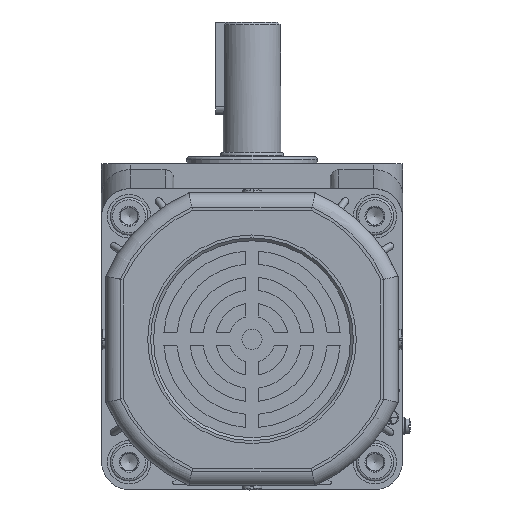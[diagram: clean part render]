
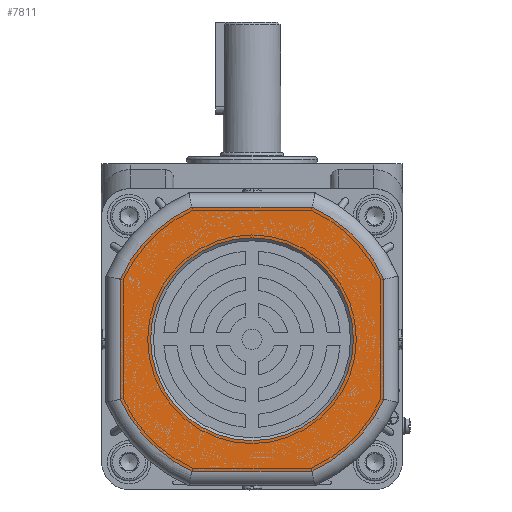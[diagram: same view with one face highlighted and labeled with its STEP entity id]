
A CAD part, left-side view. The second image highlights one B-rep face of the part: STEP entity #7811.
In plain terms, the highlighted planar face has unit normal (-1, 0, 0).
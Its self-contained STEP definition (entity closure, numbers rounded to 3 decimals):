
#2148=FACE_BOUND('',#11865,.T.);
#2149=FACE_BOUND('',#11866,.T.);
#3043=PLANE('',#32017);
#4251=LINE('',#48721,#5905);
#4252=LINE('',#48737,#5906);
#4255=LINE('',#48789,#5909);
#4256=LINE('',#48805,#5910);
#5905=VECTOR('',#38072,1.);
#5906=VECTOR('',#38075,1.);
#5909=VECTOR('',#38092,1.);
#5910=VECTOR('',#38095,1.);
#7811=ADVANCED_FACE('',(#2148,#2149),#3043,.F.);
#11865=EDGE_LOOP('',(#17873));
#11866=EDGE_LOOP('',(#17874,#17875,#17876,#17877,#17878,#17879,#17880,#17881));
#17873=ORIENTED_EDGE('',*,*,#26225,.T.);
#17874=ORIENTED_EDGE('',*,*,#26235,.T.);
#17875=ORIENTED_EDGE('',*,*,#26230,.T.);
#17876=ORIENTED_EDGE('',*,*,#26237,.T.);
#17877=ORIENTED_EDGE('',*,*,#26243,.T.);
#17878=ORIENTED_EDGE('',*,*,#26249,.T.);
#17879=ORIENTED_EDGE('',*,*,#26251,.T.);
#17880=ORIENTED_EDGE('',*,*,#26247,.T.);
#17881=ORIENTED_EDGE('',*,*,#26241,.T.);
#22645=VERTEX_POINT('',#48666);
#22650=VERTEX_POINT('',#48688);
#22651=VERTEX_POINT('',#48690);
#22653=VERTEX_POINT('',#48718);
#22656=VERTEX_POINT('',#48736);
#22657=VERTEX_POINT('',#48752);
#22660=VERTEX_POINT('',#48770);
#22661=VERTEX_POINT('',#48786);
#22664=VERTEX_POINT('',#48804);
#26225=EDGE_CURVE('',#22645,#22645,#29199,.T.);
#26230=EDGE_CURVE('',#22651,#22650,#29203,.T.);
#26235=EDGE_CURVE('',#22653,#22651,#4251,.T.);
#26237=EDGE_CURVE('',#22650,#22656,#4252,.T.);
#26241=EDGE_CURVE('',#22657,#22653,#29206,.T.);
#26243=EDGE_CURVE('',#22656,#22660,#29207,.T.);
#26247=EDGE_CURVE('',#22661,#22657,#4255,.T.);
#26249=EDGE_CURVE('',#22660,#22664,#4256,.T.);
#26251=EDGE_CURVE('',#22664,#22661,#29209,.T.);
#29199=CIRCLE('',#31827,35.);
#29203=CIRCLE('',#31833,50.);
#29206=CIRCLE('',#31839,50.);
#29207=CIRCLE('',#31841,50.);
#29209=CIRCLE('',#31846,50.);
#31827=AXIS2_PLACEMENT_3D('',#48665,#38053,#38054);
#31833=AXIS2_PLACEMENT_3D('',#48689,#38065,#38066);
#31839=AXIS2_PLACEMENT_3D('',#48755,#38081,#38082);
#31841=AXIS2_PLACEMENT_3D('',#48771,#38085,#38086);
#31846=AXIS2_PLACEMENT_3D('',#48808,#38099,#38100);
#32017=AXIS2_PLACEMENT_3D('',#49389,#38601,#38602);
#38053=DIRECTION('',(1.,0.,0.));
#38054=DIRECTION('',(0.,-1.,0.));
#38065=DIRECTION('',(-1.,0.,0.));
#38066=DIRECTION('',(0.,0.,1.));
#38072=DIRECTION('',(0.,-1.,0.));
#38075=DIRECTION('',(0.,0.,1.));
#38081=DIRECTION('',(-1.,0.,0.));
#38082=DIRECTION('',(0.,0.,1.));
#38085=DIRECTION('',(-1.,0.,0.));
#38086=DIRECTION('',(0.,0.,1.));
#38092=DIRECTION('',(0.,0.,-1.));
#38095=DIRECTION('',(0.,1.,0.));
#38099=DIRECTION('',(-1.,0.,0.));
#38100=DIRECTION('',(0.,0.,1.));
#38601=DIRECTION('',(1.,0.,0.));
#38602=DIRECTION('',(0.,0.,1.));
#48665=CARTESIAN_POINT('',(-214.8,-120.671,-58.491));
#48666=CARTESIAN_POINT('',(-214.8,-155.671,-58.491));
#48688=CARTESIAN_POINT('',(-214.8,-166.171,-79.221));
#48689=CARTESIAN_POINT('',(-214.8,-120.671,-58.491));
#48690=CARTESIAN_POINT('',(-214.8,-141.402,-103.991));
#48718=CARTESIAN_POINT('',(-214.8,-99.941,-103.991));
#48721=CARTESIAN_POINT('',(-214.8,-142.46,-103.991));
#48736=CARTESIAN_POINT('',(-214.8,-166.171,-37.76));
#48737=CARTESIAN_POINT('',(-214.8,-166.171,-36.702));
#48752=CARTESIAN_POINT('',(-214.8,-75.171,-79.221));
#48755=CARTESIAN_POINT('',(-214.8,-120.671,-58.491));
#48770=CARTESIAN_POINT('',(-214.8,-141.402,-12.991));
#48771=CARTESIAN_POINT('',(-214.8,-120.671,-58.491));
#48786=CARTESIAN_POINT('',(-214.8,-75.171,-37.76));
#48789=CARTESIAN_POINT('',(-214.8,-75.171,-80.28));
#48804=CARTESIAN_POINT('',(-214.8,-99.941,-12.991));
#48805=CARTESIAN_POINT('',(-214.8,-98.882,-12.991));
#48808=CARTESIAN_POINT('',(-214.8,-120.671,-58.491));
#49389=CARTESIAN_POINT('',(-214.8,-120.671,-58.491));
